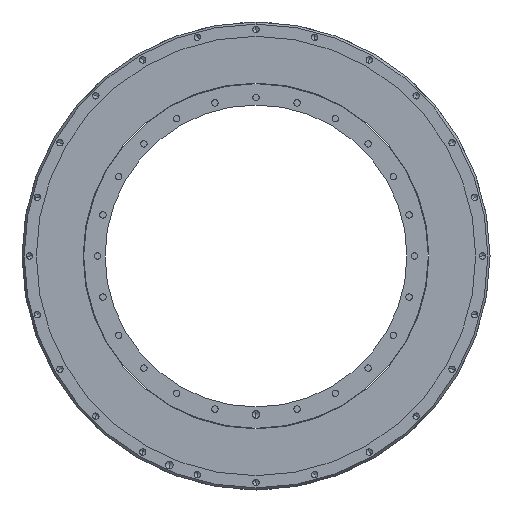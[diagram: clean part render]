
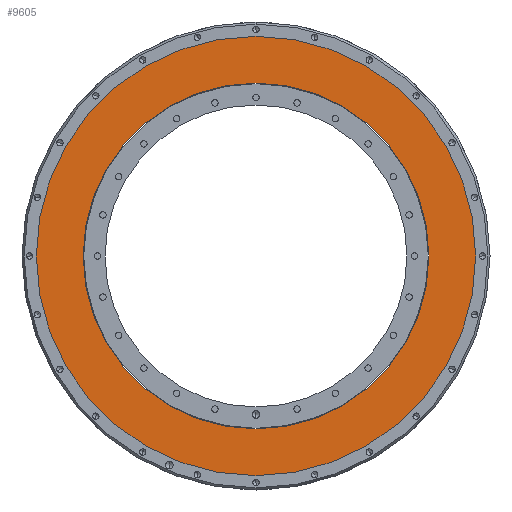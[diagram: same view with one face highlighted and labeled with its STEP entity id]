
A CAD part, front view. The second image highlights one B-rep face of the part: STEP entity #9605.
In plain terms, the highlighted planar face has unit normal (0, -1, 0).
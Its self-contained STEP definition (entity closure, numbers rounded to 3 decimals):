
#46 = DIRECTION ( 'NONE',  ( 0., 0., -1. ) ) ;
#65 = AXIS2_PLACEMENT_3D ( 'NONE', #1822, #5888, #10704 ) ;
#413 = CIRCLE ( 'NONE', #11835, 114.5 ) ;
#1383 = ORIENTED_EDGE ( 'NONE', *, *, #8016, .T. ) ;
#1606 = ORIENTED_EDGE ( 'NONE', *, *, #7485, .F. ) ;
#1822 = CARTESIAN_POINT ( 'NONE',  ( 0., 1., 0. ) ) ;
#1919 = EDGE_LOOP ( 'NONE', ( #1383, #10105 ) ) ;
#2031 = FACE_BOUND ( 'NONE', #8263, .T. ) ;
#2996 = DIRECTION ( 'NONE',  ( 0., 0., -1. ) ) ;
#3029 = DIRECTION ( 'NONE',  ( 0., -1., 0. ) ) ;
#3108 = CIRCLE ( 'NONE', #8470, 145.5 ) ;
#3814 = CARTESIAN_POINT ( 'NONE',  ( 114.5, 1., 0. ) ) ;
#3837 = AXIS2_PLACEMENT_3D ( 'NONE', #3814, #3905, #2996 ) ;
#3877 = VERTEX_POINT ( 'NONE', #7439 ) ;
#3905 = DIRECTION ( 'NONE',  ( 0., -1., 0. ) ) ;
#4811 = CIRCLE ( 'NONE', #65, 145.5 ) ;
#5097 = FACE_OUTER_BOUND ( 'NONE', #1919, .T. ) ;
#5676 = VERTEX_POINT ( 'NONE', #10934 ) ;
#5873 = CARTESIAN_POINT ( 'NONE',  ( 0., 1., 0. ) ) ;
#5888 = DIRECTION ( 'NONE',  ( 0., -1., 0. ) ) ;
#5965 = DIRECTION ( 'NONE',  ( 0., 0., -1. ) ) ;
#6279 = CARTESIAN_POINT ( 'NONE',  ( 0., 1., 114.5 ) ) ;
#6385 = DIRECTION ( 'NONE',  ( 0., 0., -1. ) ) ;
#7022 = EDGE_CURVE ( 'NONE', #3877, #11075, #7167, .T. ) ;
#7167 = CIRCLE ( 'NONE', #11875, 114.5 ) ;
#7439 = CARTESIAN_POINT ( 'NONE',  ( 0., 1., -114.5 ) ) ;
#7470 = VERTEX_POINT ( 'NONE', #8945 ) ;
#7485 = EDGE_CURVE ( 'NONE', #11075, #3877, #413, .T. ) ;
#8016 = EDGE_CURVE ( 'NONE', #5676, #7470, #4811, .T. ) ;
#8263 = EDGE_LOOP ( 'NONE', ( #9031, #1606 ) ) ;
#8470 = AXIS2_PLACEMENT_3D ( 'NONE', #5873, #8790, #5965 ) ;
#8790 = DIRECTION ( 'NONE',  ( 0., -1., 0. ) ) ;
#8945 = CARTESIAN_POINT ( 'NONE',  ( 0., 1., 145.5 ) ) ;
#9031 = ORIENTED_EDGE ( 'NONE', *, *, #7022, .F. ) ;
#9213 = DIRECTION ( 'NONE',  ( 0., -1., 0. ) ) ;
#9594 = EDGE_CURVE ( 'NONE', #7470, #5676, #3108, .T. ) ;
#9605 = ADVANCED_FACE ( 'NONE', ( #5097, #2031 ), #10870, .T. ) ;
#10105 = ORIENTED_EDGE ( 'NONE', *, *, #9594, .T. ) ;
#10704 = DIRECTION ( 'NONE',  ( 0., 0., -1. ) ) ;
#10870 = PLANE ( 'NONE',  #3837 ) ;
#10934 = CARTESIAN_POINT ( 'NONE',  ( 0., 1., -145.5 ) ) ;
#11075 = VERTEX_POINT ( 'NONE', #6279 ) ;
#11156 = CARTESIAN_POINT ( 'NONE',  ( 0., 1., 0. ) ) ;
#11829 = CARTESIAN_POINT ( 'NONE',  ( 0., 1., 0. ) ) ;
#11835 = AXIS2_PLACEMENT_3D ( 'NONE', #11829, #3029, #46 ) ;
#11875 = AXIS2_PLACEMENT_3D ( 'NONE', #11156, #9213, #6385 ) ;
